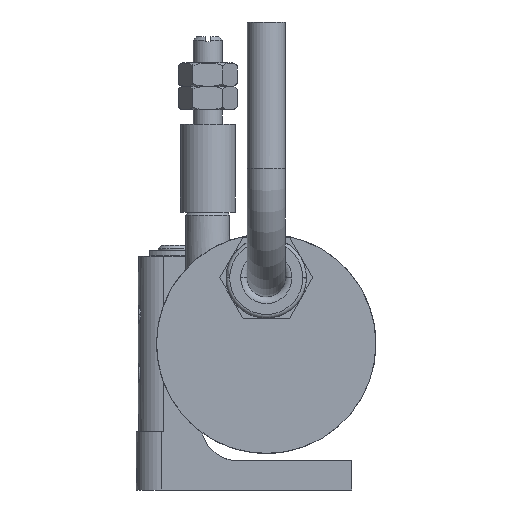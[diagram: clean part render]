
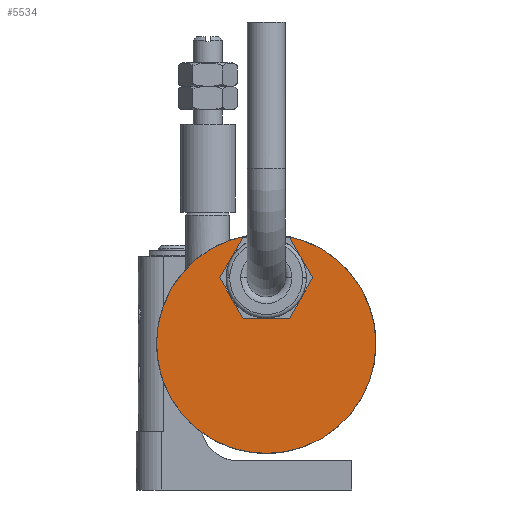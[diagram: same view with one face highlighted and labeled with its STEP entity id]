
A CAD part, left-side view. The second image highlights one B-rep face of the part: STEP entity #5534.
In plain terms, the highlighted planar face has unit normal (-1, 0, 0).
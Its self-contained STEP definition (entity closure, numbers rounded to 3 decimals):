
#1816=CARTESIAN_POINT('',(-55.,0.,0.));
#1817=DIRECTION('',(1.,0.,0.));
#1818=DIRECTION('',(0.,1.,0.));
#1819=AXIS2_PLACEMENT_3D('',#1816,#1817,#1818);
#1821=CARTESIAN_POINT('',(-55.,0.,0.));
#1822=DIRECTION('',(1.,0.,0.));
#1823=DIRECTION('',(0.,-1.,0.));
#1824=AXIS2_PLACEMENT_3D('',#1821,#1822,#1823);
#1826=DIRECTION('',(0.,0.5,-0.866));
#1827=VECTOR('',#1826,6.351);
#1828=CARTESIAN_POINT('',(-55.,-6.351,9.));
#1829=LINE('',#1828,#1827);
#1830=DIRECTION('',(0.,-0.5,-0.866));
#1831=VECTOR('',#1830,6.351);
#1832=CARTESIAN_POINT('',(-55.,-3.175,14.5));
#1833=LINE('',#1832,#1831);
#1834=DIRECTION('',(0.,-1.,0.));
#1835=VECTOR('',#1834,6.351);
#1836=CARTESIAN_POINT('',(-55.,3.175,14.5));
#1837=LINE('',#1836,#1835);
#1838=DIRECTION('',(0.,-0.5,0.866));
#1839=VECTOR('',#1838,6.351);
#1840=CARTESIAN_POINT('',(-55.,6.351,9.));
#1841=LINE('',#1840,#1839);
#1842=DIRECTION('',(0.,0.5,0.866));
#1843=VECTOR('',#1842,6.351);
#1844=CARTESIAN_POINT('',(-55.,3.175,3.5));
#1845=LINE('',#1844,#1843);
#1846=DIRECTION('',(0.,1.,0.));
#1847=VECTOR('',#1846,6.351);
#1848=CARTESIAN_POINT('',(-55.,-3.175,3.5));
#1849=LINE('',#1848,#1847);
#3422=CARTESIAN_POINT('',(-55.,15.,0.));
#3423=CARTESIAN_POINT('',(-55.,-15.,0.));
#3424=VERTEX_POINT('',#3422);
#3425=VERTEX_POINT('',#3423);
#3678=CARTESIAN_POINT('',(-55.,-6.351,9.));
#3679=CARTESIAN_POINT('',(-55.,-3.175,3.5));
#3680=VERTEX_POINT('',#3678);
#3681=VERTEX_POINT('',#3679);
#3682=CARTESIAN_POINT('',(-55.,-3.175,14.5));
#3683=VERTEX_POINT('',#3682);
#3684=CARTESIAN_POINT('',(-55.,3.175,14.5));
#3685=VERTEX_POINT('',#3684);
#3686=CARTESIAN_POINT('',(-55.,6.351,9.));
#3687=VERTEX_POINT('',#3686);
#3688=CARTESIAN_POINT('',(-55.,3.175,3.5));
#3689=VERTEX_POINT('',#3688);
#5511=CARTESIAN_POINT('',(-55.,0.,0.));
#5512=DIRECTION('',(1.,0.,0.));
#5513=DIRECTION('',(0.,1.,0.));
#5514=AXIS2_PLACEMENT_3D('',#5511,#5512,#5513);
#5515=PLANE('',#5514);
#5516=ORIENTED_EDGE('',*,*,#4374,.T.);
#5517=ORIENTED_EDGE('',*,*,#5052,.T.);
#5518=EDGE_LOOP('',(#5516,#5517));
#5519=FACE_OUTER_BOUND('',#5518,.F.);
#5521=ORIENTED_EDGE('',*,*,#5520,.F.);
#5523=ORIENTED_EDGE('',*,*,#5522,.F.);
#5525=ORIENTED_EDGE('',*,*,#5524,.F.);
#5527=ORIENTED_EDGE('',*,*,#5526,.F.);
#5529=ORIENTED_EDGE('',*,*,#5528,.F.);
#5531=ORIENTED_EDGE('',*,*,#5530,.F.);
#5532=EDGE_LOOP('',(#5521,#5523,#5525,#5527,#5529,#5531));
#5533=FACE_BOUND('',#5532,.F.);
#5534=ADVANCED_FACE('',(#5519,#5533),#5515,.F.);
#1820=CIRCLE('',#1819,15.);
#1825=CIRCLE('',#1824,15.);
#4374=EDGE_CURVE('',#3424,#3425,#1820,.T.);
#5052=EDGE_CURVE('',#3425,#3424,#1825,.T.);
#5520=EDGE_CURVE('',#3680,#3681,#1829,.T.);
#5522=EDGE_CURVE('',#3683,#3680,#1833,.T.);
#5524=EDGE_CURVE('',#3685,#3683,#1837,.T.);
#5526=EDGE_CURVE('',#3687,#3685,#1841,.T.);
#5528=EDGE_CURVE('',#3689,#3687,#1845,.T.);
#5530=EDGE_CURVE('',#3681,#3689,#1849,.T.);
